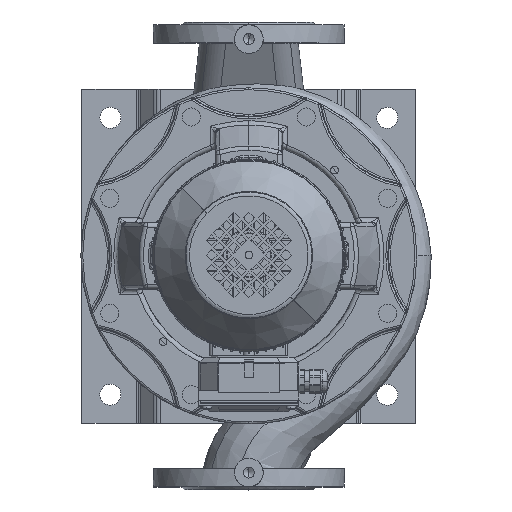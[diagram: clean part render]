
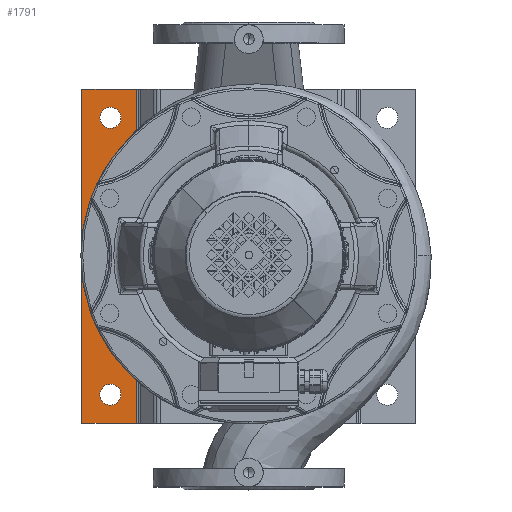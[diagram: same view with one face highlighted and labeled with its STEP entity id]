
A CAD part, top view. The second image highlights one B-rep face of the part: STEP entity #1791.
In plain terms, the highlighted planar face has unit normal (0, 0, 1) as drawn and (0, 1, 0) by its records, which use the part's own axes.
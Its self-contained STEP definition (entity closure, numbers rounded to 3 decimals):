
#1791=ADVANCED_FACE('',(#3280,#3281,#3282),#3283,.F.);
#1835=EDGE_CURVE('',#3363,#3364,#3365,.T.);
#3280=FACE_OUTER_BOUND('',#9104,.T.);
#3281=FACE_BOUND('',#9105,.T.);
#3282=FACE_BOUND('',#9106,.T.);
#3283=PLANE('',#9107);
#3363=VERTEX_POINT('',#9190);
#3364=VERTEX_POINT('',#9191);
#3365=LINE('',#9192,#9193);
#9104=EDGE_LOOP('',(#16523,#16524,#16525,#16526));
#9105=EDGE_LOOP('',(#16527,#16528));
#9106=EDGE_LOOP('',(#16529,#16530));
#9107=AXIS2_PLACEMENT_3D('',#16531,#16532,#16533);
#9190=CARTESIAN_POINT('',(350.,5.0,0.));
#9191=CARTESIAN_POINT('',(292.485,5.0,0.));
#9192=CARTESIAN_POINT('',(350.,5.0,0.));
#9193=VECTOR('',#16771,1.);
#16523=ORIENTED_EDGE('',*,*,#32089,.F.);
#16524=ORIENTED_EDGE('',*,*,#32090,.F.);
#16525=ORIENTED_EDGE('',*,*,#32091,.F.);
#16526=ORIENTED_EDGE('',*,*,#1835,.T.);
#16527=ORIENTED_EDGE('',*,*,#32068,.T.);
#16528=ORIENTED_EDGE('',*,*,#32042,.T.);
#16529=ORIENTED_EDGE('',*,*,#32059,.T.);
#16530=ORIENTED_EDGE('',*,*,#32057,.T.);
#16531=CARTESIAN_POINT('',(320.,5.0,0.));
#16532=DIRECTION('',(0.0,-1.0,-0.0));
#16533=DIRECTION('',(1.0,0.0,0.));
#16771=DIRECTION('',(-1.0,0.0,0.));
#32042=EDGE_CURVE('',#50933,#50937,#50939,.T.);
#32057=EDGE_CURVE('',#50960,#50964,#50966,.T.);
#32059=EDGE_CURVE('',#50964,#50960,#50968,.T.);
#32068=EDGE_CURVE('',#50937,#50933,#50977,.T.);
#32089=EDGE_CURVE('',#50999,#3364,#51000,.T.);
#32090=EDGE_CURVE('',#51001,#50999,#51002,.T.);
#32091=EDGE_CURVE('',#3363,#51001,#51003,.T.);
#50933=VERTEX_POINT('',#60411);
#50937=VERTEX_POINT('',#60416);
#50939=CIRCLE('',#60419,11.0);
#50960=VERTEX_POINT('',#60444);
#50964=VERTEX_POINT('',#60449);
#50966=CIRCLE('',#60452,11.0);
#50968=CIRCLE('',#60454,11.0);
#50977=CIRCLE('',#60463,11.0);
#50999=VERTEX_POINT('',#60487);
#51000=LINE('',#60488,#60489);
#51001=VERTEX_POINT('',#60490);
#51002=LINE('',#60491,#60492);
#51003=LINE('',#60493,#60494);
#60411=CARTESIAN_POINT('',(317.522,5.0,19.283));
#60416=CARTESIAN_POINT('',(322.478,5.0,40.717));
#60419=AXIS2_PLACEMENT_3D('',#70779,#70780,#70781);
#60444=CARTESIAN_POINT('',(318.321,5.0,309.129));
#60449=CARTESIAN_POINT('',(321.679,5.0,330.871));
#60452=AXIS2_PLACEMENT_3D('',#70803,#70804,#70805);
#60454=AXIS2_PLACEMENT_3D('',#70806,#70807,#70808);
#60463=AXIS2_PLACEMENT_3D('',#70824,#70825,#70826);
#60487=CARTESIAN_POINT('',(292.485,5.0,350.));
#60488=CARTESIAN_POINT('',(292.485,5.0,0.));
#60489=VECTOR('',#70862,1.0);
#60490=CARTESIAN_POINT('',(350.,5.0,350.));
#60491=CARTESIAN_POINT('',(350.,5.0,350.));
#60492=VECTOR('',#70863,1.);
#60493=CARTESIAN_POINT('',(350.,5.0,0.));
#60494=VECTOR('',#70864,1.0);
#70779=CARTESIAN_POINT('',(320.,5.0,30.));
#70780=DIRECTION('',(-0.0,-1.0,0.0));
#70781=DIRECTION('',(-0.225,0.0,-0.974));
#70803=CARTESIAN_POINT('',(320.,5.0,320.));
#70804=DIRECTION('',(-0.0,-1.0,0.0));
#70805=DIRECTION('',(-0.153,0.0,-0.988));
#70806=CARTESIAN_POINT('',(320.,5.0,320.));
#70807=DIRECTION('',(-0.0,-1.0,0.0));
#70808=DIRECTION('',(-0.153,0.0,-0.988));
#70824=CARTESIAN_POINT('',(320.,5.0,30.));
#70825=DIRECTION('',(-0.0,-1.0,0.0));
#70826=DIRECTION('',(-0.225,0.0,-0.974));
#70862=DIRECTION('',(0.,0.0,-1.0));
#70863=DIRECTION('',(-1.0,0.0,0.));
#70864=DIRECTION('',(0.,0.0,1.0));
